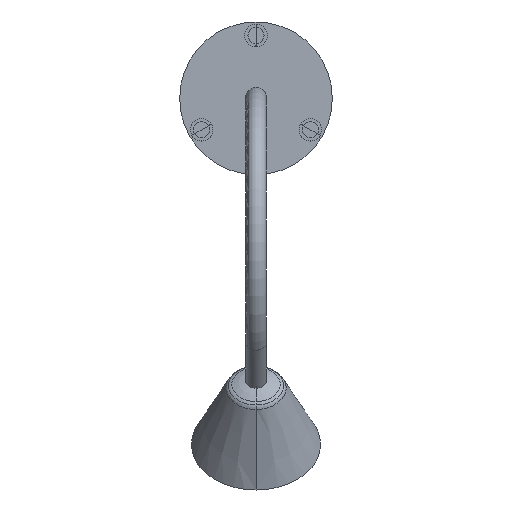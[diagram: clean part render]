
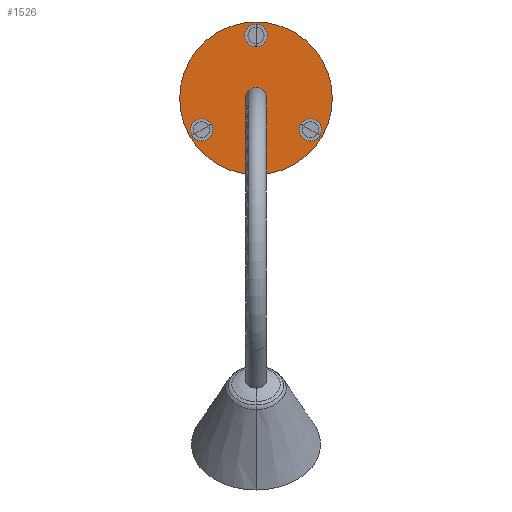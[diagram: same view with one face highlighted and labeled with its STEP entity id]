
A CAD part, top view. The second image highlights one B-rep face of the part: STEP entity #1526.
In plain terms, the highlighted planar face has unit normal (0, 0, 1).
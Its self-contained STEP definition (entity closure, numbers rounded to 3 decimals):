
#50=FACE_BOUND('',#380,.T.);
#51=FACE_BOUND('',#381,.T.);
#52=FACE_BOUND('',#382,.T.);
#129=CIRCLE('',#1666,6.234);
#130=CIRCLE('',#1668,6.234);
#135=CIRCLE('',#1676,6.234);
#136=CIRCLE('',#1678,6.234);
#141=CIRCLE('',#1686,6.234);
#142=CIRCLE('',#1688,6.234);
#143=CIRCLE('',#1690,42.5);
#145=CIRCLE('',#1693,42.5);
#268=FACE_OUTER_BOUND('',#379,.T.);
#379=EDGE_LOOP('',(#1279,#1280));
#380=EDGE_LOOP('',(#1281,#1282));
#381=EDGE_LOOP('',(#1283,#1284));
#382=EDGE_LOOP('',(#1285,#1286));
#731=VERTEX_POINT('',#2496);
#732=VERTEX_POINT('',#2498);
#737=VERTEX_POINT('',#2516);
#738=VERTEX_POINT('',#2518);
#743=VERTEX_POINT('',#2536);
#744=VERTEX_POINT('',#2538);
#745=VERTEX_POINT('',#2544);
#746=VERTEX_POINT('',#2545);
#900=EDGE_CURVE('',#732,#731,#129,.T.);
#902=EDGE_CURVE('',#731,#732,#130,.T.);
#910=EDGE_CURVE('',#738,#737,#135,.T.);
#912=EDGE_CURVE('',#737,#738,#136,.T.);
#920=EDGE_CURVE('',#744,#743,#141,.T.);
#922=EDGE_CURVE('',#743,#744,#142,.T.);
#923=EDGE_CURVE('',#745,#746,#143,.T.);
#927=EDGE_CURVE('',#746,#745,#145,.T.);
#1279=ORIENTED_EDGE('',*,*,#927,.T.);
#1280=ORIENTED_EDGE('',*,*,#923,.T.);
#1281=ORIENTED_EDGE('',*,*,#922,.T.);
#1282=ORIENTED_EDGE('',*,*,#920,.T.);
#1283=ORIENTED_EDGE('',*,*,#912,.T.);
#1284=ORIENTED_EDGE('',*,*,#910,.T.);
#1285=ORIENTED_EDGE('',*,*,#902,.T.);
#1286=ORIENTED_EDGE('',*,*,#900,.T.);
#1438=PLANE('',#1696);
#1526=ADVANCED_FACE('',(#268,#50,#51,#52),#1438,.T.);
#1666=AXIS2_PLACEMENT_3D('',#2499,#2036,#2037);
#1668=AXIS2_PLACEMENT_3D('',#2502,#2041,#2042);
#1676=AXIS2_PLACEMENT_3D('',#2519,#2060,#2061);
#1678=AXIS2_PLACEMENT_3D('',#2522,#2065,#2066);
#1686=AXIS2_PLACEMENT_3D('',#2539,#2084,#2085);
#1688=AXIS2_PLACEMENT_3D('',#2542,#2089,#2090);
#1690=AXIS2_PLACEMENT_3D('',#2546,#2093,#2094);
#1693=AXIS2_PLACEMENT_3D('',#2553,#2101,#2102);
#1696=AXIS2_PLACEMENT_3D('',#2556,#2107,#2108);
#2036=DIRECTION('center_axis',(0.,0.,-1.));
#2037=DIRECTION('ref_axis',(0.995,-0.105,0.));
#2041=DIRECTION('center_axis',(0.,0.,-1.));
#2042=DIRECTION('ref_axis',(0.995,-0.105,0.));
#2060=DIRECTION('center_axis',(0.,0.,-1.));
#2061=DIRECTION('ref_axis',(-0.407,0.914,0.));
#2065=DIRECTION('center_axis',(0.,0.,-1.));
#2066=DIRECTION('ref_axis',(-0.407,0.914,0.));
#2084=DIRECTION('center_axis',(0.,0.,-1.));
#2085=DIRECTION('ref_axis',(-0.588,-0.809,0.));
#2089=DIRECTION('center_axis',(0.,0.,-1.));
#2090=DIRECTION('ref_axis',(-0.588,-0.809,0.));
#2093=DIRECTION('center_axis',(0.,0.,1.));
#2094=DIRECTION('ref_axis',(1.,0.,0.));
#2101=DIRECTION('center_axis',(0.,0.,1.));
#2102=DIRECTION('ref_axis',(1.,0.,0.));
#2107=DIRECTION('center_axis',(0.,0.,1.));
#2108=DIRECTION('ref_axis',(0.,1.,0.));
#2496=CARTESIAN_POINT('',(-24.907,-14.38,4.));
#2498=CARTESIAN_POINT('',(-35.705,-20.614,4.));
#2499=CARTESIAN_POINT('Origin',(-30.306,-17.497,4.));
#2502=CARTESIAN_POINT('Origin',(-30.306,-17.497,4.));
#2516=CARTESIAN_POINT('',(24.907,-14.38,4.));
#2518=CARTESIAN_POINT('',(35.705,-20.614,4.));
#2519=CARTESIAN_POINT('Origin',(30.306,-17.497,4.));
#2522=CARTESIAN_POINT('Origin',(30.306,-17.497,4.));
#2536=CARTESIAN_POINT('',(0.,28.76,4.));
#2538=CARTESIAN_POINT('',(0.,41.229,4.));
#2539=CARTESIAN_POINT('Origin',(0.,34.994,4.));
#2542=CARTESIAN_POINT('Origin',(0.,34.994,4.));
#2544=CARTESIAN_POINT('',(42.5,0.,4.));
#2545=CARTESIAN_POINT('',(-42.5,0.,4.));
#2546=CARTESIAN_POINT('Origin',(0.,0.,
4.));
#2553=CARTESIAN_POINT('Origin',(0.,0.,
4.));
#2556=CARTESIAN_POINT('Origin',(42.5,0.,4.));
